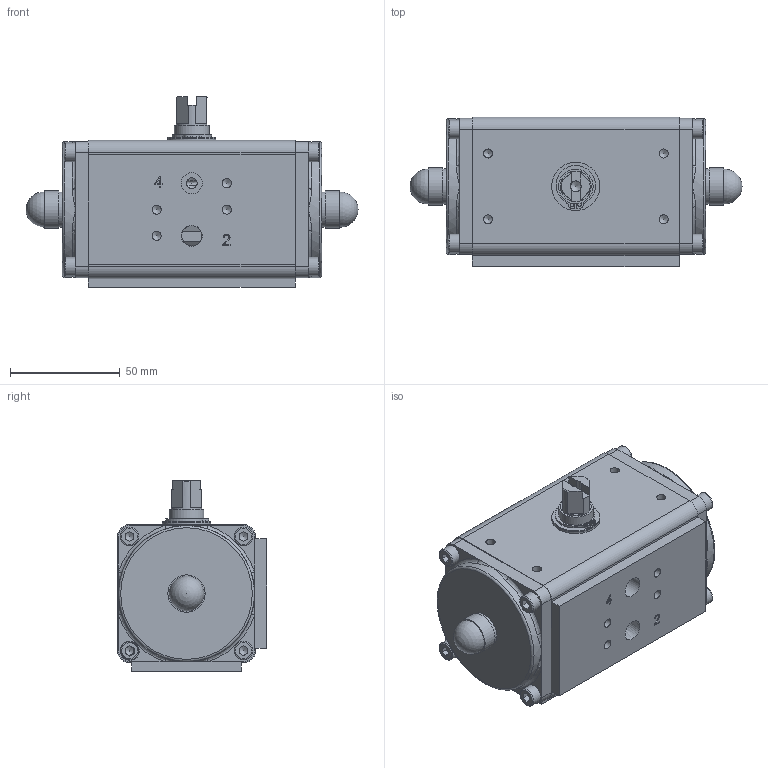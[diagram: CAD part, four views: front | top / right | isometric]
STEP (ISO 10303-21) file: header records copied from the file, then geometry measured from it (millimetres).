
FILE_DESCRIPTION((''),'2;1');
FILE_NAME('C:\Dokumente und Einstellungen\ko-p\Desktop\PGD 07 BR04.stp','2011-02-01T14:35:44',('war'),(''),'Autodesk Inventor 2010','Autodesk Inventor 2010','');
FILE_SCHEMA(('AUTOMOTIVE_DESIGN { 1 0 10303 214 1 1 1 1 }'));
Length unit declared in the file: millimetre
Products named in the file (1): ENG-036821_Konturvereinfachung_1
Bounding box: 151.3 x 68 x 87 mm (x, y, z)
Surface area: 67363.2 mm2 (no closed solid volume)
Topology: 0 solids, 29 shells, 279 faces, 937 edges, 659 vertices
Faces by surface type: plane 143, bspline 60, cylinder 48, cone 14, torus 12, sphere 2
Full cylindrical faces by diameter (mm): 1.7 x2, 4.134 x3, 8.5 x9, 14 x1, 14.9 x1, 15.8 x1, 16 x2, 17 x2, 22 x2, 47.6 x1, 48 x1, 62 x2
Entity records: 10900 total; most frequent: CARTESIAN_POINT 3575, DIRECTION 1362, ORIENTED_EDGE 1245, EDGE_CURVE 780, VERTEX_POINT 606, AXIS2_PLACEMENT_3D 473, VECTOR 416, LINE 416
